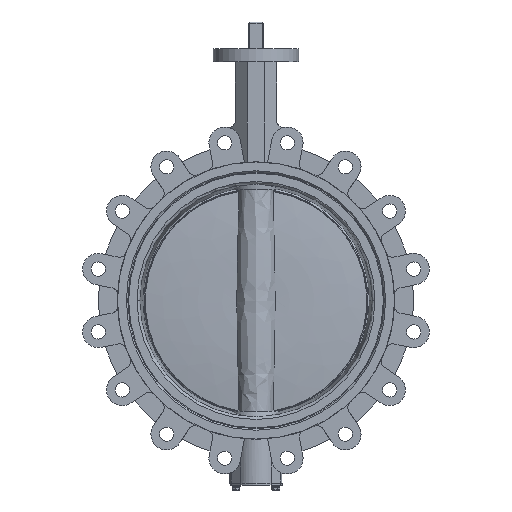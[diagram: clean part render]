
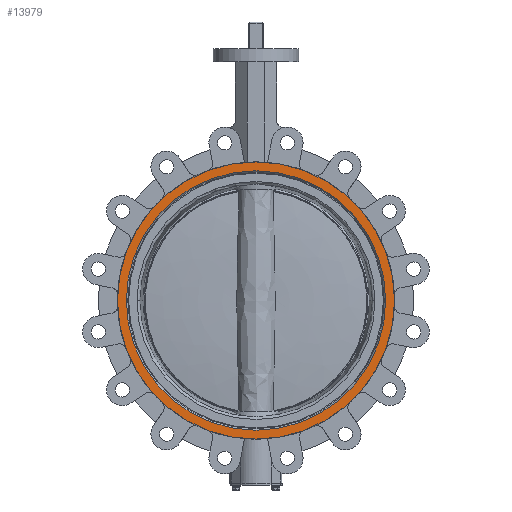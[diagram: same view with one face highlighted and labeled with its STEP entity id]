
A CAD part, left-side view. The second image highlights one B-rep face of the part: STEP entity #13979.
In plain terms, the highlighted planar face has unit normal (-1, 0, 0).
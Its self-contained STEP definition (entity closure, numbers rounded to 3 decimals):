
#2850 = CYLINDRICAL_SURFACE('',#2851,202.5);
#2851 = AXIS2_PLACEMENT_3D('',#2852,#2853,#2854);
#2852 = CARTESIAN_POINT('',(126.752,0.,
    0.));
#2853 = DIRECTION('',(1.,0.,0.));
#2854 = DIRECTION('',(0.,1.,0.));
#6948 = VERTEX_POINT('',#6949);
#6949 = CARTESIAN_POINT('',(-37.75,-189.55,0.));
#6956 = CONICAL_SURFACE('',#6957,189.55,0.785);
#6957 = AXIS2_PLACEMENT_3D('',#6958,#6959,#6960);
#6958 = CARTESIAN_POINT('',(-37.75,0.,0.
    ));
#6959 = DIRECTION('',(-1.,0.,0.));
#6960 = DIRECTION('',(0.,-1.,0.));
#6968 = CONICAL_SURFACE('',#6969,189.55,0.785);
#6969 = AXIS2_PLACEMENT_3D('',#6970,#6971,#6972);
#6970 = CARTESIAN_POINT('',(-37.75,0.,0.
    ));
#6971 = DIRECTION('',(-1.,0.,0.));
#6972 = DIRECTION('',(0.,-1.,0.));
#6980 = EDGE_CURVE('',#6948,#6981,#6983,.T.);
#6981 = VERTEX_POINT('',#6982);
#6982 = CARTESIAN_POINT('',(-37.75,189.55,0.));
#6983 = SURFACE_CURVE('',#6984,(#6989,#6996),.PCURVE_S1.);
#6984 = CIRCLE('',#6985,189.55);
#6985 = AXIS2_PLACEMENT_3D('',#6986,#6987,#6988);
#6986 = CARTESIAN_POINT('',(-37.75,0.,0.
    ));
#6987 = DIRECTION('',(1.,0.,0.));
#6988 = DIRECTION('',(0.,1.,0.));
#6989 = PCURVE('',#6956,#6990);
#6990 = DEFINITIONAL_REPRESENTATION('',(#6991),#6995);
#6991 = LINE('',#6992,#6993);
#6992 = CARTESIAN_POINT('',(9.425,0.));
#6993 = VECTOR('',#6994,1.);
#6994 = DIRECTION('',(-1.,0.));
#6995 = ( GEOMETRIC_REPRESENTATION_CONTEXT(2) 
PARAMETRIC_REPRESENTATION_CONTEXT() REPRESENTATION_CONTEXT('2D SPACE',''
  ) );
#6996 = PCURVE('',#6997,#7002);
#6997 = PLANE('',#6998);
#6998 = AXIS2_PLACEMENT_3D('',#6999,#7000,#7001);
#6999 = CARTESIAN_POINT('',(-37.75,0.,202.5));
#7000 = DIRECTION('',(-1.,0.,0.));
#7001 = DIRECTION('',(0.,-1.,0.));
#7002 = DEFINITIONAL_REPRESENTATION('',(#7003),#7011);
#7003 = ( BOUNDED_CURVE() B_SPLINE_CURVE(2,(#7004,#7005,#7006,#7007,
#7008,#7009,#7010),.UNSPECIFIED.,.T.,.F.) B_SPLINE_CURVE_WITH_KNOTS((1,2
    ,2,2,2,1),(-2.094,0.,2.094,4.189,
6.283,8.378),.UNSPECIFIED.) CURVE() 
GEOMETRIC_REPRESENTATION_ITEM() RATIONAL_B_SPLINE_CURVE((1.,0.5,1.,0.5,
1.,0.5,1.)) REPRESENTATION_ITEM('') );
#7004 = CARTESIAN_POINT('',(-189.55,-202.5));
#7005 = CARTESIAN_POINT('',(-189.55,125.81));
#7006 = CARTESIAN_POINT('',(94.775,-38.345));
#7007 = CARTESIAN_POINT('',(379.1,-202.5));
#7008 = CARTESIAN_POINT('',(94.775,-366.655));
#7009 = CARTESIAN_POINT('',(-189.55,-530.81));
#7010 = CARTESIAN_POINT('',(-189.55,-202.5));
#7011 = ( GEOMETRIC_REPRESENTATION_CONTEXT(2) 
PARAMETRIC_REPRESENTATION_CONTEXT() REPRESENTATION_CONTEXT('2D SPACE',''
  ) );
#8337 = EDGE_CURVE('',#8338,#8340,#8342,.T.);
#8338 = VERTEX_POINT('',#8339);
#8339 = CARTESIAN_POINT('',(-37.75,202.5,0.));
#8340 = VERTEX_POINT('',#8341);
#8341 = CARTESIAN_POINT('',(-37.75,-202.5,0.));
#8342 = SURFACE_CURVE('',#8343,(#8348,#8360),.PCURVE_S1.);
#8343 = CIRCLE('',#8344,202.5);
#8344 = AXIS2_PLACEMENT_3D('',#8345,#8346,#8347);
#8345 = CARTESIAN_POINT('',(-37.75,0.,0.
    ));
#8346 = DIRECTION('',(1.,0.,0.));
#8347 = DIRECTION('',(0.,1.,0.));
#8348 = PCURVE('',#8349,#8354);
#8349 = CYLINDRICAL_SURFACE('',#8350,202.5);
#8350 = AXIS2_PLACEMENT_3D('',#8351,#8352,#8353);
#8351 = CARTESIAN_POINT('',(126.752,0.,
    0.));
#8352 = DIRECTION('',(1.,0.,0.));
#8353 = DIRECTION('',(0.,1.,0.));
#8354 = DEFINITIONAL_REPRESENTATION('',(#8355),#8359);
#8355 = LINE('',#8356,#8357);
#8356 = CARTESIAN_POINT('',(0.,-164.502));
#8357 = VECTOR('',#8358,1.);
#8358 = DIRECTION('',(1.,0.));
#8359 = ( GEOMETRIC_REPRESENTATION_CONTEXT(2) 
PARAMETRIC_REPRESENTATION_CONTEXT() REPRESENTATION_CONTEXT('2D SPACE',''
  ) );
#8360 = PCURVE('',#6997,#8361);
#8361 = DEFINITIONAL_REPRESENTATION('',(#8362),#8370);
#8362 = ( BOUNDED_CURVE() B_SPLINE_CURVE(2,(#8363,#8364,#8365,#8366,
#8367,#8368,#8369),.UNSPECIFIED.,.T.,.F.) B_SPLINE_CURVE_WITH_KNOTS((1,2
    ,2,2,2,1),(-2.094,0.,2.094,4.189,
6.283,8.378),.UNSPECIFIED.) CURVE() 
GEOMETRIC_REPRESENTATION_ITEM() RATIONAL_B_SPLINE_CURVE((1.,0.5,1.,0.5,
1.,0.5,1.)) REPRESENTATION_ITEM('') );
#8363 = CARTESIAN_POINT('',(-202.5,-202.5));
#8364 = CARTESIAN_POINT('',(-202.5,148.24));
#8365 = CARTESIAN_POINT('',(101.25,-27.13));
#8366 = CARTESIAN_POINT('',(405.,-202.5));
#8367 = CARTESIAN_POINT('',(101.25,-377.87));
#8368 = CARTESIAN_POINT('',(-202.5,-553.24));
#8369 = CARTESIAN_POINT('',(-202.5,-202.5));
#8370 = ( GEOMETRIC_REPRESENTATION_CONTEXT(2) 
PARAMETRIC_REPRESENTATION_CONTEXT() REPRESENTATION_CONTEXT('2D SPACE',''
  ) );
#10127 = EDGE_CURVE('',#8340,#8338,#10128,.T.);
#10128 = SURFACE_CURVE('',#10129,(#10134,#10141),.PCURVE_S1.);
#10129 = CIRCLE('',#10130,202.5);
#10130 = AXIS2_PLACEMENT_3D('',#10131,#10132,#10133);
#10131 = CARTESIAN_POINT('',(-37.75,0.,
    0.));
#10132 = DIRECTION('',(1.,0.,0.));
#10133 = DIRECTION('',(0.,1.,0.));
#10134 = PCURVE('',#2850,#10135);
#10135 = DEFINITIONAL_REPRESENTATION('',(#10136),#10140);
#10136 = LINE('',#10137,#10138);
#10137 = CARTESIAN_POINT('',(0.,-164.502));
#10138 = VECTOR('',#10139,1.);
#10139 = DIRECTION('',(1.,0.));
#10140 = ( GEOMETRIC_REPRESENTATION_CONTEXT(2) 
PARAMETRIC_REPRESENTATION_CONTEXT() REPRESENTATION_CONTEXT('2D SPACE',''
  ) );
#10141 = PCURVE('',#6997,#10142);
#10142 = DEFINITIONAL_REPRESENTATION('',(#10143),#10151);
#10143 = ( BOUNDED_CURVE() B_SPLINE_CURVE(2,(#10144,#10145,#10146,#10147
    ,#10148,#10149,#10150),.UNSPECIFIED.,.T.,.F.) 
B_SPLINE_CURVE_WITH_KNOTS((1,2,2,2,2,1),(-2.094,0.,
    2.094,4.189,6.283,8.378),
.UNSPECIFIED.) CURVE() GEOMETRIC_REPRESENTATION_ITEM() 
RATIONAL_B_SPLINE_CURVE((1.,0.5,1.,0.5,1.,0.5,1.)) REPRESENTATION_ITEM(
  '') );
#10144 = CARTESIAN_POINT('',(-202.5,-202.5));
#10145 = CARTESIAN_POINT('',(-202.5,148.24));
#10146 = CARTESIAN_POINT('',(101.25,-27.13));
#10147 = CARTESIAN_POINT('',(405.,-202.5));
#10148 = CARTESIAN_POINT('',(101.25,-377.87));
#10149 = CARTESIAN_POINT('',(-202.5,-553.24));
#10150 = CARTESIAN_POINT('',(-202.5,-202.5));
#10151 = ( GEOMETRIC_REPRESENTATION_CONTEXT(2) 
PARAMETRIC_REPRESENTATION_CONTEXT() REPRESENTATION_CONTEXT('2D SPACE',''
  ) );
#13979 = ADVANCED_FACE('',(#13980,#14009),#6997,.T.);
#13980 = FACE_BOUND('',#13981,.T.);
#13981 = EDGE_LOOP('',(#13982,#13983));
#13982 = ORIENTED_EDGE('',*,*,#6980,.T.);
#13983 = ORIENTED_EDGE('',*,*,#13984,.T.);
#13984 = EDGE_CURVE('',#6981,#6948,#13985,.T.);
#13985 = SURFACE_CURVE('',#13986,(#13991,#14002),.PCURVE_S1.);
#13986 = CIRCLE('',#13987,189.55);
#13987 = AXIS2_PLACEMENT_3D('',#13988,#13989,#13990);
#13988 = CARTESIAN_POINT('',(-37.75,0.,
    0.));
#13989 = DIRECTION('',(1.,0.,0.));
#13990 = DIRECTION('',(0.,1.,0.));
#13991 = PCURVE('',#6997,#13992);
#13992 = DEFINITIONAL_REPRESENTATION('',(#13993),#14001);
#13993 = ( BOUNDED_CURVE() B_SPLINE_CURVE(2,(#13994,#13995,#13996,#13997
    ,#13998,#13999,#14000),.UNSPECIFIED.,.T.,.F.) 
B_SPLINE_CURVE_WITH_KNOTS((1,2,2,2,2,1),(-2.094,0.,
    2.094,4.189,6.283,8.378),
.UNSPECIFIED.) CURVE() GEOMETRIC_REPRESENTATION_ITEM() 
RATIONAL_B_SPLINE_CURVE((1.,0.5,1.,0.5,1.,0.5,1.)) REPRESENTATION_ITEM(
  '') );
#13994 = CARTESIAN_POINT('',(-189.55,-202.5));
#13995 = CARTESIAN_POINT('',(-189.55,125.81));
#13996 = CARTESIAN_POINT('',(94.775,-38.345));
#13997 = CARTESIAN_POINT('',(379.1,-202.5));
#13998 = CARTESIAN_POINT('',(94.775,-366.655));
#13999 = CARTESIAN_POINT('',(-189.55,-530.81));
#14000 = CARTESIAN_POINT('',(-189.55,-202.5));
#14001 = ( GEOMETRIC_REPRESENTATION_CONTEXT(2) 
PARAMETRIC_REPRESENTATION_CONTEXT() REPRESENTATION_CONTEXT('2D SPACE',''
  ) );
#14002 = PCURVE('',#6968,#14003);
#14003 = DEFINITIONAL_REPRESENTATION('',(#14004),#14008);
#14004 = LINE('',#14005,#14006);
#14005 = CARTESIAN_POINT('',(3.142,0.));
#14006 = VECTOR('',#14007,1.);
#14007 = DIRECTION('',(-1.,0.));
#14008 = ( GEOMETRIC_REPRESENTATION_CONTEXT(2) 
PARAMETRIC_REPRESENTATION_CONTEXT() REPRESENTATION_CONTEXT('2D SPACE',''
  ) );
#14009 = FACE_BOUND('',#14010,.T.);
#14010 = EDGE_LOOP('',(#14011,#14012));
#14011 = ORIENTED_EDGE('',*,*,#8337,.F.);
#14012 = ORIENTED_EDGE('',*,*,#10127,.F.);
